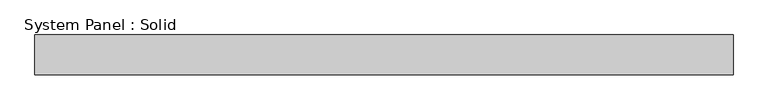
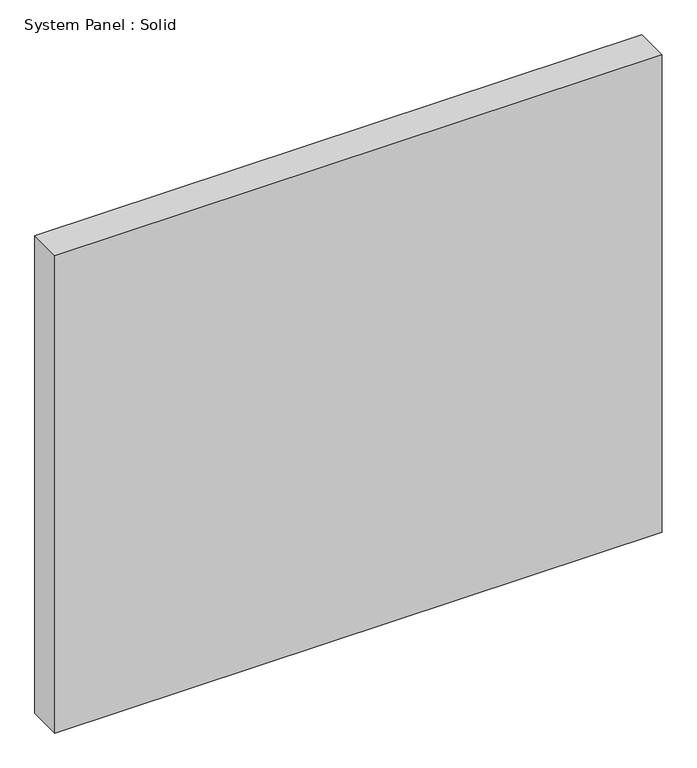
"""IFC4 building model written with IfcOpenShell, lengths in millimetres: plate geometry, System Panel : Solid."""

from ifc_helpers import new_model, si_unit, origin, origin_with_axes, place, context, project, spatial, polyline, outline, extrude, source, transform, mapped, element, save


def system_panel_solid_0818f308(model_context):
    return source(origin(), model_context, "Body", "SweptSolid", [
        extrude(outline(polyline([(554.0375, -19.05), (-554.0375, -19.05), (-554.0375, 44.45), (554.0375, 44.45), (554.0375, -19.05)])), origin_with_axes(), (0.0, 0.0, 1.0), 920.75),
    ])


if __name__ == "__main__":
    model = new_model("IFC4")
    model_context = context("Model", 3, world=origin())
    ifc_project = project(units=[si_unit("LENGTHUNIT", "METRE", prefix="MILLI")], contexts=[model_context])
    site = spatial("IfcSite", under=ifc_project)
    building = spatial("IfcBuilding", under=site)
    placement = place(None, origin())
    system_panel_solid_shape = system_panel_solid_0818f308(model_context)
    element("IfcPlate", 1, ObjectType="System Panel : Solid", at=placement, inside=building, context=model_context, shape_type="MappedRepresentation", body=[
        mapped(system_panel_solid_shape, transform((0.0, 0.0, 0.0), x_axis=(1.0, 0.0, 0.0), y_axis=(0.0, 1.0, 0.0), z_axis=(0.0, 0.0, 1.0))),
    ])
    save(model, "model.ifc")
